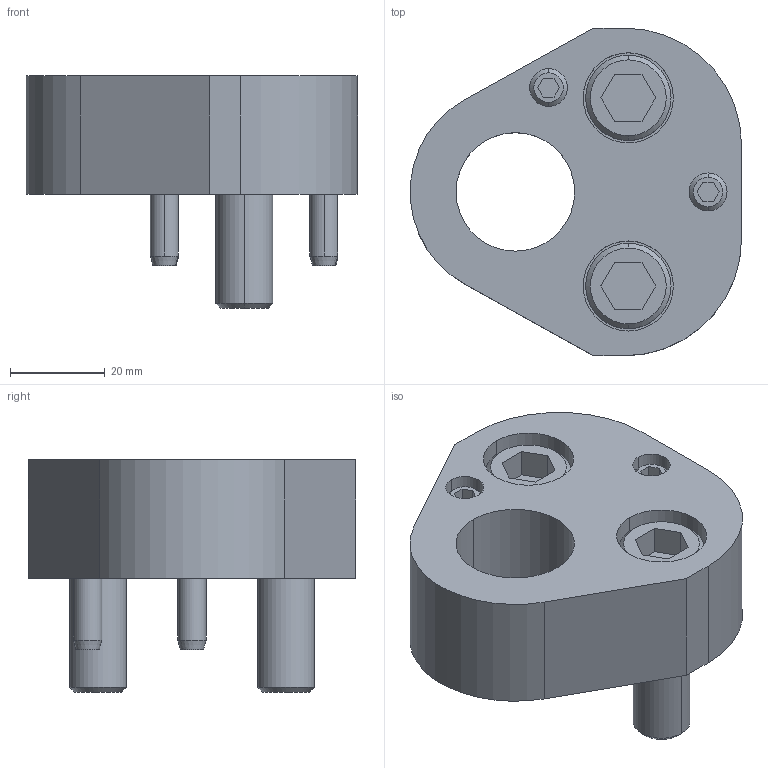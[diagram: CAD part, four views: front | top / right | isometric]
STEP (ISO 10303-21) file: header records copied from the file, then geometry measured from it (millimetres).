
FILE_DESCRIPTION(/* description */ (''),/* implementation_level */ '2;1');
FILE_NAME(/* name */ '3d_25crnar25_03135_r00.stp',/* time_stamp */ '2011-01-10T14:17:52+09:00',/* author */ ('MISUMI'),/* organization */ (''),/* preprocessor_version */ 'ST-DEVELOPER v11',/* originating_system */ 'UGS - NX 5.0',/* authorisation */ '');
FILE_SCHEMA (('CONFIG_CONTROL_DESIGN'));
Length unit declared in the file: millimetre
Products named in the file (1): 3d_25crnar25_03135_r00
Bounding box: 69.83 x 69.1 x 49 mm (x, y, z)
Volume: 81088.2 mm3; surface area: 24329.5 mm2
Topology: 7 solids, 7 shells, 135 faces, 294 edges, 188 vertices
Faces by surface type: plane 60, cylinder 49, cone 26
Entity records: 3836 total; most frequent: DIRECTION 684, CARTESIAN_POINT 672, ORIENTED_EDGE 588, EDGE_CURVE 294, AXIS2_PLACEMENT_3D 260, VERTEX_POINT 188, LINE 164, VECTOR 164
